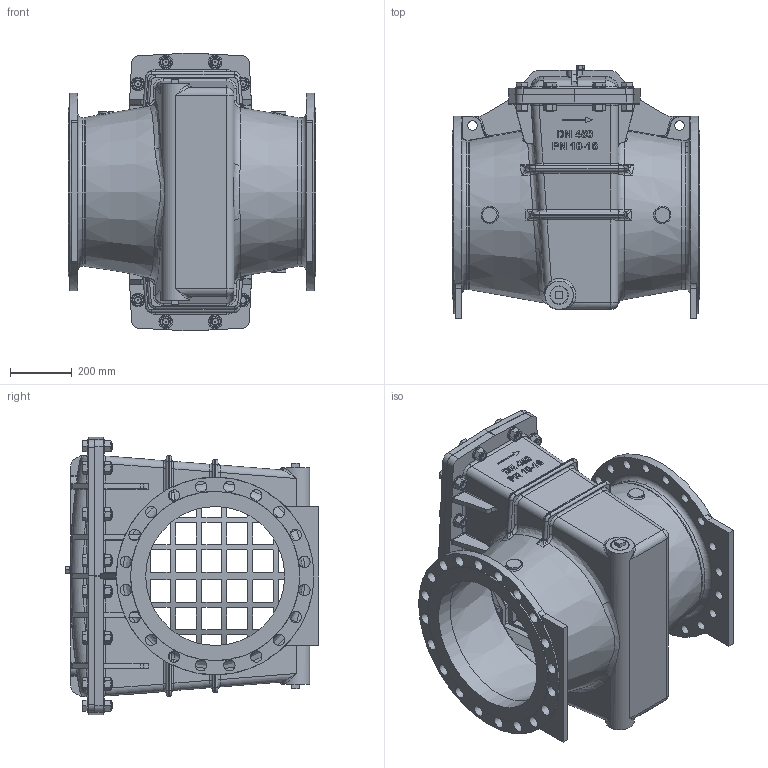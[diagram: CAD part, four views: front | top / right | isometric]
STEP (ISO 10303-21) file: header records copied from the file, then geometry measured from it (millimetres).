
FILE_DESCRIPTION(/* description */ (''),/* implementation_level */ '2;1');
FILE_NAME(/* name */ 'G:\Doc_Liberes\SymbolesCAD\Modeles_3D\FichierSTP\Aqua\Aqua90501\FAB450-16.stp',/* time_stamp */ '2018-04-10T13:53:00+02:00',/* author */ ('sylvain'),/* organization */ (''),/* preprocessor_version */ 'ST-DEVELOPER v17',/* originating_system */ 'Autodesk Inventor 2018',/* authorisation */ '');
FILE_SCHEMA (('AUTOMOTIVE_DESIGN { 1 0 10303 214 3 1 1 }'));
Products named in the file (10): FAB45016; 58095-46; 58070-40; 58072-40; 57576-02; 57576-07; ISO 4144 Bouchon mâle T8 2; ISO 4017 - M24 x 80; ISO 4032 - M24; ISO 7089 - 24 - 140 HV
Assembly tree (71 placements, depth 3):
  FAB45016
    58095-46
    58070-40
    58072-40
    57576-02
      57576-07
    ISO 4144 Bouchon mâle T8 2  x2
    ISO 4017 - M24 x 80  x16
    ISO 4032 - M24  x16
    ISO 7089 - 24 - 140 HV  x32
Bounding box: 800 x 820 x 900 mm (x, y, z)
Volume: 61000439.9 mm3; surface area: 7478418.3 mm2
Topology: 70 solids, 70 shells, 3610 faces, 9132 edges, 5738 vertices
Faces by surface type: plane 1404, cylinder 1015, bspline 711, torus 263, cone 199, sphere 18
Full cylindrical faces by diameter (mm): 1.221 x16, 1.6 x1, 2.3 x1, 6.92 x1, 13.84 x2, 14 x1, 18.63 x1, 20.955 x1, 24 x16, 25 x32, 26 x32, 30 x2, 31 x20, 33.61 x16, 37 x20, 44 x32, 52.9 x2, 56.66 x2, 450 x2, 548 x2, 640 x2
Entity records: 127209 total; most frequent: CARTESIAN_POINT 56231, ORIENTED_EDGE 15556, DIRECTION 13260, EDGE_CURVE 7778, VERTEX_POINT 4878, AXIS2_PLACEMENT_3D 4875, LINE 3510, VECTOR 3510
